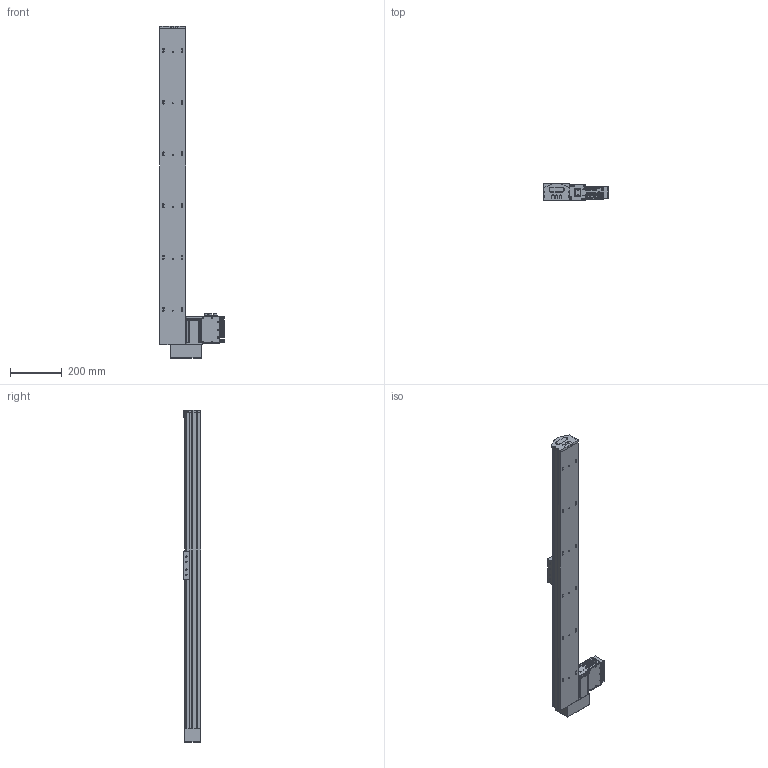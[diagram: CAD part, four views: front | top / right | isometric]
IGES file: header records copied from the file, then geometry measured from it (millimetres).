
Start section: SolidWorks IGES file using analytic representation for surfaces
Global section: file name: C:\Documents and Settings\1EDPI\Mes documents\yanize\S 10 TSH BR\S 10 TSH BR S1000.IGS; native system: SolidWorks 2010; preprocessor: SolidWorks 2010; author: 1EDPI; date: 120904.144539; units: millimetre
Bounding box: 249.22 x 67.5 x 1282 mm (x, y, z)
Surface area: 883110.3 mm2 (no closed solid volume)
Topology: 0 solids, 0 shells, 2000 faces, 27196 edges, 27164 vertices
Faces by surface type: revolution 1067, bspline 933
